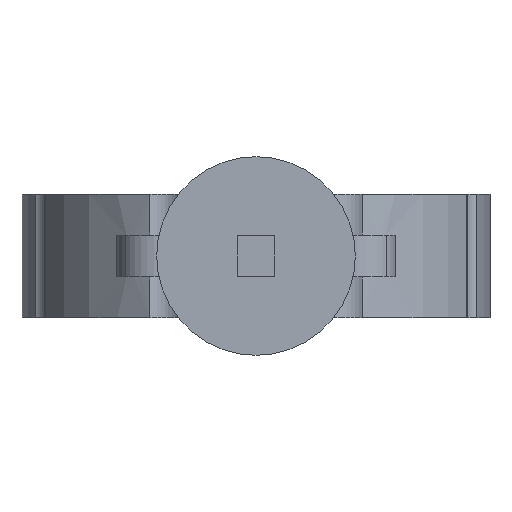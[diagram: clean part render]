
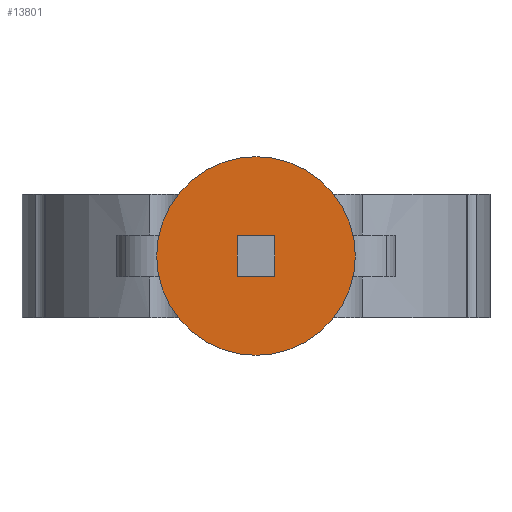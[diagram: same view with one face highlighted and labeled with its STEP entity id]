
A CAD part, front view. The second image highlights one B-rep face of the part: STEP entity #13801.
In plain terms, the highlighted free-form (B-spline) face has degree [1, 1] with [2, 2] control points.
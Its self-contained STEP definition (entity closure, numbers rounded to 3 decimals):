
#13692=CARTESIAN_POINT('',(45.0,-203.0,28.));
#13693=VERTEX_POINT('',#13692);
#13709=CARTESIAN_POINT('',(-45.0,-203.0,28.));
#13710=VERTEX_POINT('',#13709);
#13717=CARTESIAN_POINT('',(0.0,-203.0,28.));
#13718=DIRECTION('',(0.0,1.0,0.0));
#13719=DIRECTION('',(1.0,0.0,0.0));
#13720=AXIS2_PLACEMENT_3D('',#13717,#13718,#13719);
#13721=CIRCLE('',#13720,45.0);
#13722=EDGE_CURVE('',#13710,#13693,#13721,.T.);
#13770=CARTESIAN_POINT('',(0.0,-203.0,-17.));
#13771=VERTEX_POINT('',#13770);
#13772=CARTESIAN_POINT('',(0.0,-203.0,28.));
#13773=DIRECTION('',(0.0,1.0,0.0));
#13774=DIRECTION('',(1.0,0.0,0.0));
#13775=AXIS2_PLACEMENT_3D('',#13772,#13773,#13774);
#13776=CIRCLE('',#13775,45.0);
#13777=EDGE_CURVE('',#13693,#13771,#13776,.T.);
#13779=CARTESIAN_POINT('',(0.0,-203.0,28.));
#13780=DIRECTION('',(0.0,1.0,0.0));
#13781=DIRECTION('',(1.0,0.0,0.0));
#13782=AXIS2_PLACEMENT_3D('',#13779,#13780,#13781);
#13783=CIRCLE('',#13782,45.0);
#13784=EDGE_CURVE('',#13771,#13710,#13783,.T.);
#13791=CARTESIAN_POINT('',(-45.0,-203.,-17.));
#13792=CARTESIAN_POINT('',(45.,-203.,-17.));
#13793=CARTESIAN_POINT('',(-45.,-203.0,73.0));
#13794=CARTESIAN_POINT('',(45.0,-203.,73.));
#13795=B_SPLINE_SURFACE_WITH_KNOTS('',1,1,((#13791,#13793),(#13792,#13794)),.UNSPECIFIED.,.F.,.F.,.U.,(2,2),(2,2),(0.0,90.),(0.0,90.),.UNSPECIFIED.);
#13796=ORIENTED_EDGE('',*,*,#13784,.F.);
#13797=ORIENTED_EDGE('',*,*,#13777,.F.);
#13798=ORIENTED_EDGE('',*,*,#13722,.F.);
#13799=EDGE_LOOP('',(#13796,#13797,#13798));
#13800=FACE_OUTER_BOUND('',#13799,.T.);
#13801=ADVANCED_FACE('',(#13800),#13795,.T.);
